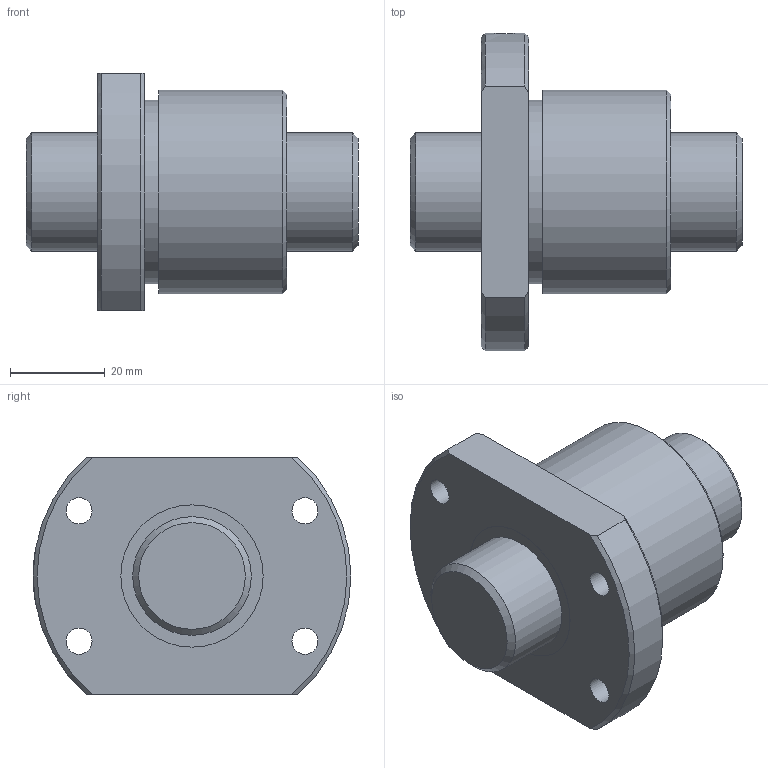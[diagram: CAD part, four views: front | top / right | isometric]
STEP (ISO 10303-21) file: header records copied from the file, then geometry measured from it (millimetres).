
FILE_DESCRIPTION(/* description */ ('STEP AP203'),/* implementation_level */ '2;1');
FILE_NAME(/* name */ 'BTK2505V-2.6ZZ+70LC7T_000',/* time_stamp */ '2025-01-15T03:12:22+01:00',/* author */ ('License CC BY-ND 4.0'),/* organization */ ('CADENAS'),/* preprocessor_version */ 'ST-DEVELOPER v19.3',/* originating_system */ 'PARTsolutions',/* authorisation */ ' ');
FILE_SCHEMA (('CONFIG_CONTROL_DESIGN'));
Length unit declared in the file: millimetre
Products named in the file (3): BTK2505V-2.6ZZ+70LC7T_000; BTK 2505V-2.600 Shaft; BTK 2505V-2.6ZZ Nut
Assembly tree (2 placements, depth 2):
  BTK2505V-2.6ZZ+70LC7T_000
    BTK 2505V-2.600 Shaft
    BTK 2505V-2.6ZZ Nut
Bounding box: 70 x 67 x 50 mm (x, y, z)
Volume: 85902 mm3; surface area: 21718.9 mm2
Topology: 2 solids, 2 shells, 31 faces, 66 edges, 43 vertices
Faces by surface type: cylinder 13, plane 10, cone 8
Full cylindrical faces by diameter (mm): 4.917 x1, 5.5 x4, 25 x2, 30 x2, 38.7 x1, 43 x1
Entity records: 887 total; most frequent: CARTESIAN_POINT 170, DIRECTION 140, ORIENTED_EDGE 100, AXIS2_PLACEMENT_3D 66, EDGE_LOOP 62, FACE_BOUND 62, EDGE_CURVE 50, VERTEX_POINT 42
